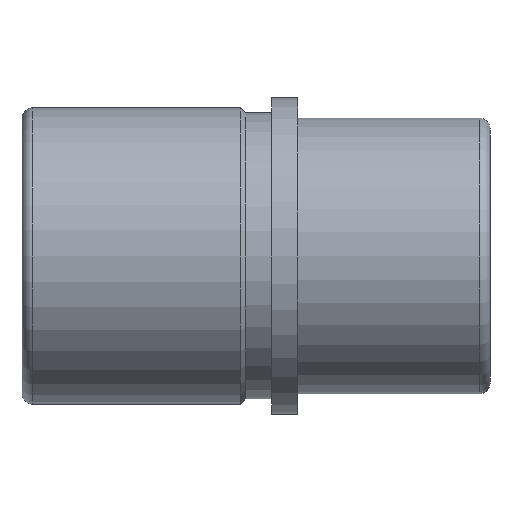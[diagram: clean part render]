
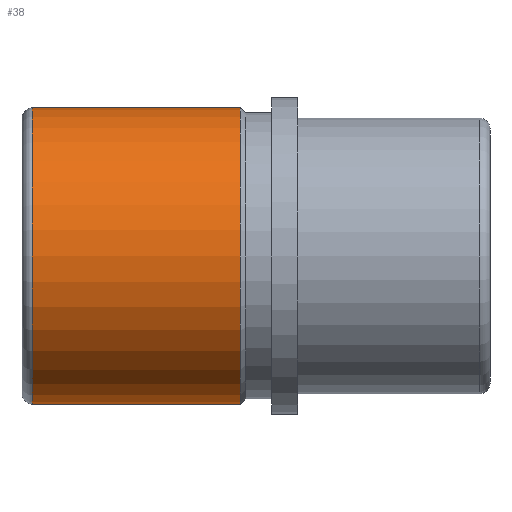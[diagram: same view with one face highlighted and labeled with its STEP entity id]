
A CAD part, front view. The second image highlights one B-rep face of the part: STEP entity #38.
In plain terms, the highlighted cylindrical face has radius 28.5 mm (diameter 57 mm), a full revolution.
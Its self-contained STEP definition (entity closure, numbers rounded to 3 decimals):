
#38 = ADVANCED_FACE( '', ( #83, #84 ), #85, .T. );
#83 = FACE_OUTER_BOUND( '', #146, .T. );
#84 = FACE_OUTER_BOUND( '', #147, .T. );
#85 = CYLINDRICAL_SURFACE( '', #148, 28.5 );
#146 = EDGE_LOOP( '', ( #203 ) );
#147 = EDGE_LOOP( '', ( #204 ) );
#148 = AXIS2_PLACEMENT_3D( '', #205, #206, #207 );
#203 = ORIENTED_EDGE( '', *, *, #287, .T. );
#204 = ORIENTED_EDGE( '', *, *, #288, .F. );
#205 = CARTESIAN_POINT( '', ( 37., 0., 0. ) );
#206 = DIRECTION( '', ( -1., 0., 0. ) );
#207 = DIRECTION( '', ( 0., 0., -1. ) );
#287 = EDGE_CURVE( '', #315, #315, #316, .T. );
#288 = EDGE_CURVE( '', #317, #317, #318, .T. );
#315 = VERTEX_POINT( '', #357 );
#316 = CIRCLE( '', #358, 28.5 );
#317 = VERTEX_POINT( '', #359 );
#318 = CIRCLE( '', #360, 28.5 );
#357 = CARTESIAN_POINT( '', ( -51., 0., -28.5 ) );
#358 = AXIS2_PLACEMENT_3D( '', #398, #399, #400 );
#359 = CARTESIAN_POINT( '', ( -11., 0., -28.5 ) );
#360 = AXIS2_PLACEMENT_3D( '', #401, #402, #403 );
#398 = CARTESIAN_POINT( '', ( -51., 0., 0. ) );
#399 = DIRECTION( '', ( 1., 0., 0. ) );
#400 = DIRECTION( '', ( 0., 0., -1. ) );
#401 = CARTESIAN_POINT( '', ( -11., 0., 0. ) );
#402 = DIRECTION( '', ( 1., 0., 0. ) );
#403 = DIRECTION( '', ( 0., 0., -1. ) );
